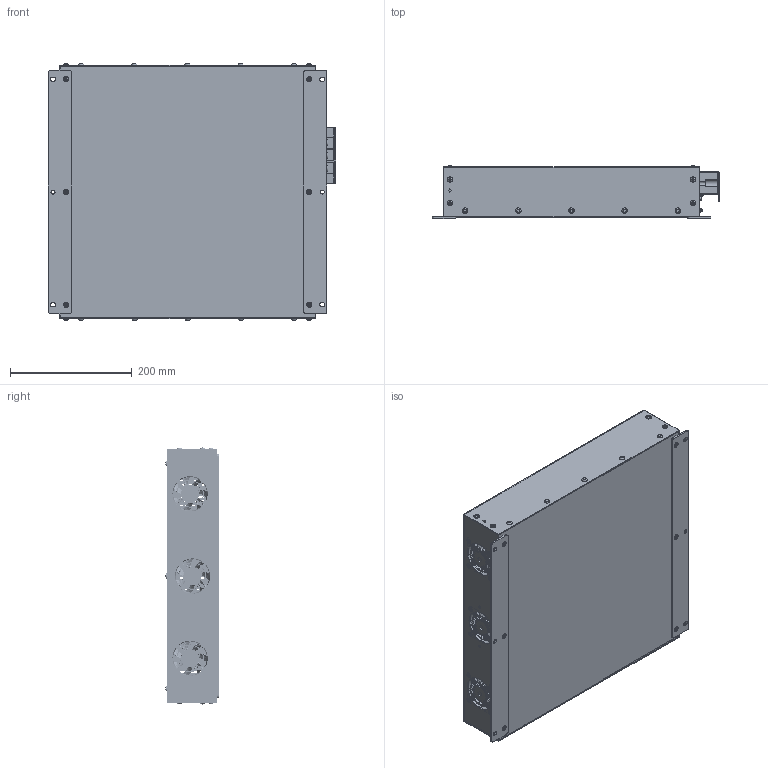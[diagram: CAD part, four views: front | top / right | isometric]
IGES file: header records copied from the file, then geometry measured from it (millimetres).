
Global section: file name: VW3COM_OLED_2026.06.05; native system: Autodesk Inventor 2026; preprocessor: unknown; author: Administrator; date: 20260605.144604; units: millimetre
Bounding box: 471.28 x 87.95 x 421.84 mm (x, y, z)
Volume: 913514.4 mm3; surface area: 1153006.2 mm2
Topology: 21 solids, 21 shells, 6137 faces, 16203 edges, 10574 vertices
Faces by surface type: bspline 6137
